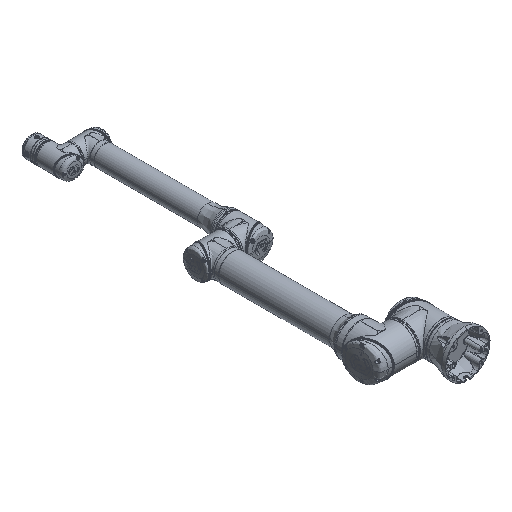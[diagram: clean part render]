
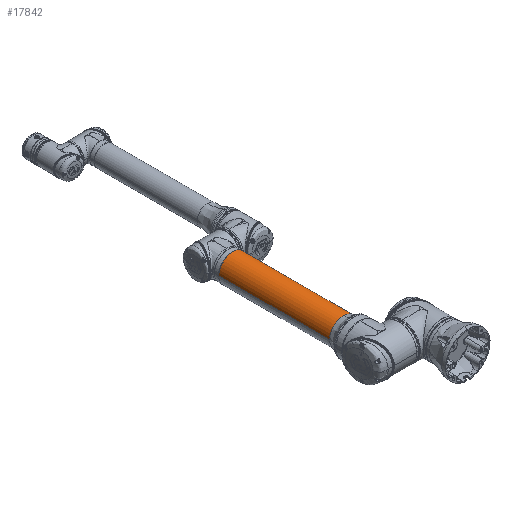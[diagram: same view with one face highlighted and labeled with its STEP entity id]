
A CAD part, isometric view. The second image highlights one B-rep face of the part: STEP entity #17842.
In plain terms, the highlighted cylindrical face has radius 59 mm (diameter 118 mm), a partial arc.
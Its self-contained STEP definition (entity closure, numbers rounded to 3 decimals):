
#17842 = ADVANCED_FACE ( 'NONE', ( #415261 ), #77274, .T. ) ;
#19699 = CIRCLE ( 'NONE', #501322, 59. ) ;
#37723 = VECTOR ( 'NONE', #107256, 1000. ) ;
#39128 = EDGE_LOOP ( 'NONE', ( #387768, #254675, #337420, #177469, #314040 ) ) ;
#41997 = CIRCLE ( 'NONE', #354182, 59. ) ;
#67148 = CARTESIAN_POINT ( 'NONE',  ( 632.1, 0., 59. ) ) ;
#68304 = AXIS2_PLACEMENT_3D ( 'NONE', #161087, #418038, #339686 ) ;
#72078 = LINE ( 'NONE', #331750, #85470 ) ;
#76901 = EDGE_CURVE ( 'NONE', #218387, #141084, #139591, .T. ) ;
#77274 = CYLINDRICAL_SURFACE ( 'NONE', #68304, 59. ) ;
#85470 = VECTOR ( 'NONE', #502086, 1000. ) ;
#102677 = VERTEX_POINT ( 'NONE', #67148 ) ;
#107256 = DIRECTION ( 'NONE',  ( 1., 0., 0. ) ) ;
#108644 = DIRECTION ( 'NONE',  ( 1., 0., 0. ) ) ;
#109373 = CARTESIAN_POINT ( 'NONE',  ( 158.463, 0., -59. ) ) ;
#127315 = DIRECTION ( 'NONE',  ( 1., 0., 0. ) ) ;
#127595 = CARTESIAN_POINT ( 'NONE',  ( 632.1, 0., 0. ) ) ;
#139591 = CIRCLE ( 'NONE', #453047, 59. ) ;
#141084 = VERTEX_POINT ( 'NONE', #348449 ) ;
#153354 = VERTEX_POINT ( 'NONE', #418277 ) ;
#161087 = CARTESIAN_POINT ( 'NONE',  ( 562.7, 0., 0. ) ) ;
#177469 = ORIENTED_EDGE ( 'NONE', *, *, #548549, .T. ) ;
#195175 = CARTESIAN_POINT ( 'NONE',  ( 158.463, 0., 0. ) ) ;
#205614 = VERTEX_POINT ( 'NONE', #354125 ) ;
#218387 = VERTEX_POINT ( 'NONE', #109373 ) ;
#254675 = ORIENTED_EDGE ( 'NONE', *, *, #272484, .T. ) ;
#270736 = DIRECTION ( 'NONE',  ( 0., 0., -1. ) ) ;
#272484 = EDGE_CURVE ( 'NONE', #141084, #153354, #41997, .T. ) ;
#314040 = ORIENTED_EDGE ( 'NONE', *, *, #490691, .F. ) ;
#327748 = EDGE_CURVE ( 'NONE', #153354, #102677, #72078, .T. ) ;
#331750 = CARTESIAN_POINT ( 'NONE',  ( 562.7, 0., 59. ) ) ;
#334098 = CARTESIAN_POINT ( 'NONE',  ( 158.463, 0., 0. ) ) ;
#337420 = ORIENTED_EDGE ( 'NONE', *, *, #327748, .T. ) ;
#339686 = DIRECTION ( 'NONE',  ( 0., 0., -1. ) ) ;
#348449 = CARTESIAN_POINT ( 'NONE',  ( 158.463, 59., 0. ) ) ;
#354125 = CARTESIAN_POINT ( 'NONE',  ( 632.1, 0., -59. ) ) ;
#354182 = AXIS2_PLACEMENT_3D ( 'NONE', #334098, #127315, #546342 ) ;
#358700 = LINE ( 'NONE', #447947, #37723 ) ;
#387768 = ORIENTED_EDGE ( 'NONE', *, *, #76901, .T. ) ;
#415261 = FACE_OUTER_BOUND ( 'NONE', #39128, .T. ) ;
#418038 = DIRECTION ( 'NONE',  ( 1., 0., 0. ) ) ;
#418277 = CARTESIAN_POINT ( 'NONE',  ( 158.463, 0., 59. ) ) ;
#423700 = DIRECTION ( 'NONE',  ( -1., 0., 0. ) ) ;
#447947 = CARTESIAN_POINT ( 'NONE',  ( 562.7, 0., -59. ) ) ;
#453047 = AXIS2_PLACEMENT_3D ( 'NONE', #195175, #108644, #270736 ) ;
#473840 = DIRECTION ( 'NONE',  ( 0., 0., -1. ) ) ;
#490691 = EDGE_CURVE ( 'NONE', #218387, #205614, #358700, .T. ) ;
#501322 = AXIS2_PLACEMENT_3D ( 'NONE', #127595, #423700, #473840 ) ;
#502086 = DIRECTION ( 'NONE',  ( 1., 0., 0. ) ) ;
#546342 = DIRECTION ( 'NONE',  ( 0., 0., -1. ) ) ;
#548549 = EDGE_CURVE ( 'NONE', #102677, #205614, #19699, .T. ) ;
